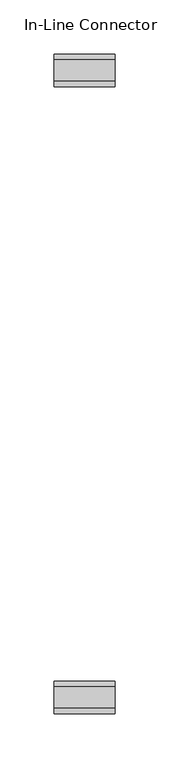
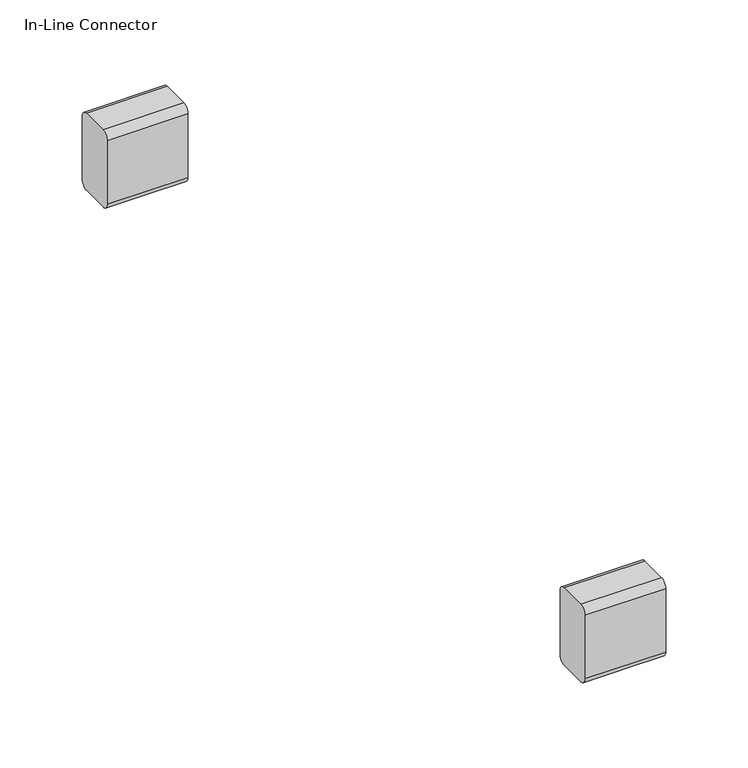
"""IFC4 building model written with IfcOpenShell, lengths in millimetres: furniture geometry, Coalesse_AM_Ensemble_Bench_EndOption : In-Line Connector."""

import ifcopenshell
import ifcopenshell.guid

model = None  # the IFC model being written
_history = None  # IfcOwnerHistory: only IFC2X3 demands one
_inside = {}  # id of a spatial element -> (the spatial element, [elements in it])
_under = {}  # id of a project, library or spatial element -> (it, [spatial elements below it])
_declared = {}  # id of a project -> (the project, [libraries it declares])
_typed = {}  # id of a type object -> (the type object, [elements of that type])
_made_of = {}  # id of a material, layer set ... -> (it, [elements and type objects made of it])


def new_model(schema):
    """Start an empty IFC model of exactly this schema.

    Asked for "IFC4X3", IfcOpenShell would pick the latest addendum, in which some entities
    have other attributes; the version numbers below select the first issue.
    IFC2X3 requires an IfcOwnerHistory on every rooted entity: one is made here for all.
    """
    global model, _history
    if schema == "IFC4X3":
        model = ifcopenshell.file(schema_version=(4, 3, 0, 0))
    else:
        model = ifcopenshell.file(schema=schema)
    _inside.clear()
    _under.clear()
    _declared.clear()
    _typed.clear()
    _made_of.clear()
    _history = None
    if model.schema == "IFC2X3":
        org = make("IfcOrganization", Name="unknown")
        user = make(
            "IfcPersonAndOrganization",
            ThePerson=make("IfcPerson", FamilyName="unknown"),
            TheOrganization=org,
        )
        app = make(
            "IfcApplication",
            ApplicationDeveloper=org,
            Version="unknown",
            ApplicationFullName="unknown",
            ApplicationIdentifier="unknown",
        )
        _history = make(
            "IfcOwnerHistory",
            OwningUser=user,
            OwningApplication=app,
            ChangeAction="ADDED",
            CreationDate=0,
        )
    return model


def make(cls, **values):
    """One entity of the class cls with the attributes given. An attribute that is None is left unset."""
    return model.create_entity(
        cls, **{name: value for name, value in values.items() if value is not None}
    )


def rooted(cls, **values):
    """An entity with a GlobalId (a new one), such as an element, a storey or a relation."""
    return make(cls, GlobalId=ifcopenshell.guid.new(), OwnerHistory=_history, **values)


def si_unit(unit_type, name, prefix=None):
    """IfcSIUnit, for example si_unit("LENGTHUNIT", "METRE", prefix="MILLI")."""
    return make("IfcSIUnit", UnitType=unit_type, Prefix=prefix, Name=name)


def assignment(units):
    """IfcUnitAssignment: the units of a project."""
    return None if units is None else make("IfcUnitAssignment", Units=units)


def point(xyz):
    """IfcCartesianPoint."""
    return None if xyz is None else make("IfcCartesianPoint", Coordinates=xyz)


def direction(xyz):
    """IfcDirection."""
    return None if xyz is None else make("IfcDirection", DirectionRatios=xyz)


def frame(location, z_axis=None, x_axis=None):
    """IfcAxis2Placement3D, a coordinate frame: its origin and axes. An axis left out is left unset."""
    return make(
        "IfcAxis2Placement3D",
        Location=point(location),
        Axis=direction(z_axis),
        RefDirection=direction(x_axis),
    )


def frame_2d(location, x_axis=None):
    """IfcAxis2Placement2D, a coordinate frame in the plane: its origin and x axis."""
    return make(
        "IfcAxis2Placement2D", Location=point(location), RefDirection=direction(x_axis)
    )


def origin():
    """The frame at (0, 0, 0) with its axes left unset."""
    return frame((0.0, 0.0, 0.0))


def place(relative_to, where):
    """IfcLocalPlacement: puts the frame where relative to a parent placement (None: the world)."""
    return make(
        "IfcLocalPlacement", PlacementRelTo=relative_to, RelativePlacement=where
    )


def context(
    kind, dimensions, precision=None, world=None, true_north=None, identifier=None
):
    """IfcGeometricRepresentationContext, for example the 3D "Model" context."""
    return make(
        "IfcGeometricRepresentationContext",
        ContextIdentifier=identifier,
        ContextType=kind,
        CoordinateSpaceDimension=dimensions,
        Precision=precision,
        WorldCoordinateSystem=world,
        TrueNorth=true_north,
    )


def project(units=None, contexts=None):
    """IfcProject with its units and contexts."""
    return rooted(
        "IfcProject",
        Name="project",
        RepresentationContexts=contexts,
        UnitsInContext=assignment(units),
    )


def spatial(cls, under=None, at=None, **own):
    """A site, building, storey or space (cls), placed at a placement, below another one or the project."""
    s = rooted(cls, ObjectPlacement=at, **own)
    if under is not None:
        _under.setdefault(under.id(), (under, []))[1].append(s)
    return s


def polyline(points):
    """IfcPolyline through the points."""
    return make("IfcPolyline", Points=[point(p) for p in points])


def circle_curve(where, radius):
    """IfcCircle in the frame where."""
    return make("IfcCircle", Position=where, Radius=radius)


def trimmed(basis, trim1, trim2, sense, master):
    """IfcTrimmedCurve: the piece of a basis curve between two trims."""
    return make(
        "IfcTrimmedCurve",
        BasisCurve=basis,
        Trim1=trim1,
        Trim2=trim2,
        SenseAgreement=sense,
        MasterRepresentation=master,
    )


def segment(curve, same_sense, transition):
    """IfcCompositeCurveSegment."""
    return make(
        "IfcCompositeCurveSegment",
        Transition=transition,
        SameSense=same_sense,
        ParentCurve=curve,
    )


def composite_curve(segments, self_intersect=None):
    """IfcCompositeCurve: segments joined end to end."""
    return make("IfcCompositeCurve", Segments=segments, SelfIntersect=self_intersect)


def outline(outer, holes=None, kind="AREA"):
    """IfcArbitraryClosedProfileDef: a profile drawn as a closed curve; with holes, ...WithVoids."""
    if holes is None:
        return make("IfcArbitraryClosedProfileDef", ProfileType=kind, OuterCurve=outer)
    return make(
        "IfcArbitraryProfileDefWithVoids",
        ProfileType=kind,
        OuterCurve=outer,
        InnerCurves=holes,
    )


def extrude(swept, where, along, depth):
    """IfcExtrudedAreaSolid: the profile swept, set in the frame where, extruded along a direction by depth."""
    return make(
        "IfcExtrudedAreaSolid",
        SweptArea=swept,
        Position=where,
        ExtrudedDirection=direction(along),
        Depth=depth,
    )


def shape(context_of_items, identifier, shape_type, items):
    """IfcShapeRepresentation: the items that make up one representation, for example the "Body"."""
    return make(
        "IfcShapeRepresentation",
        ContextOfItems=context_of_items,
        RepresentationIdentifier=identifier,
        RepresentationType=shape_type,
        Items=items,
    )


def source(mapping_origin, context_of_items, identifier, shape_type, items):
    """IfcRepresentationMap: a shape defined once, which mapped items show again and again."""
    return make(
        "IfcRepresentationMap",
        MappingOrigin=mapping_origin,
        MappedRepresentation=shape(context_of_items, identifier, shape_type, items),
    )


def transform(
    local_origin,
    x_axis=None,
    y_axis=None,
    z_axis=None,
    scale=None,
    scale2=None,
    scale3=None,
    uniform=True,
):
    """IfcCartesianTransformationOperator3D, or its non-uniform kind. x_axis, y_axis, z_axis: its Axis1, 2, 3."""
    if uniform:
        return make(
            "IfcCartesianTransformationOperator3D",
            Axis1=direction(x_axis),
            Axis2=direction(y_axis),
            LocalOrigin=point(local_origin),
            Scale=scale,
            Axis3=direction(z_axis),
        )
    return make(
        "IfcCartesianTransformationOperator3DnonUniform",
        Axis1=direction(x_axis),
        Axis2=direction(y_axis),
        LocalOrigin=point(local_origin),
        Scale=scale,
        Axis3=direction(z_axis),
        Scale2=scale2,
        Scale3=scale3,
    )


def mapped(mapping_source, mapping_target):
    """IfcMappedItem: shows the shape of a source again, moved by a transform."""
    return make(
        "IfcMappedItem", MappingSource=mapping_source, MappingTarget=mapping_target
    )


def made_of(thing, what):
    """Note that an element or type object is made of a material, layer set ...; save() writes the relation."""
    if what is not None:
        _made_of.setdefault(what.id(), (what, []))[1].append(thing)
    return thing


def element(
    cls,
    number,
    at=None,
    inside=None,
    cuts=None,
    type_object=None,
    material=None,
    context=None,
    identifier="Body",
    shape_type=None,
    held_by="IfcProductDefinitionShape",
    body=None,
    shapes=None,
    **own,
):
    """One element of the class cls, such as IfcWall. Its Tag is "e" and its number.

    at: its placement. inside: the storey or other place that contains it. cuts: it is an
    opening in that element (IfcRelVoidsElement). A single representation is given by context,
    identifier, shape_type and body (its items); several are given by shapes. held_by: the class
    of the entity that holds the representations. save() writes the other relations.
    """
    e = rooted(cls, Tag="e%d" % number, ObjectPlacement=at, **own)
    if body is not None:
        shapes = [shape(context, identifier, shape_type, body)]
    if shapes is not None:
        e.Representation = make(held_by, Representations=shapes)
    if inside is not None:
        _inside.setdefault(inside.id(), (inside, []))[1].append(e)
    if cuts is not None:
        rooted(
            "IfcRelVoidsElement", RelatingBuildingElement=cuts, RelatedOpeningElement=e
        )
    if type_object is not None:
        _typed.setdefault(type_object.id(), (type_object, []))[1].append(e)
    return made_of(e, material)


def aggregate(whole, parts):
    """IfcRelAggregates: a whole, such as a stair, and the parts it consists of."""
    return rooted("IfcRelAggregates", RelatingObject=whole, RelatedObjects=parts)


def save(model, path):
    """Write the relations noted so far, then the file.

    IfcRelAggregates (storeys below a building ...), IfcRelContainedInSpatialStructure (elements
    in a storey), IfcRelDefinesByType, IfcRelAssociatesMaterial and IfcRelDeclares: one each for
    every whole, place, type object, material and project.
    """
    for whole, parts in _under.values():
        aggregate(whole, parts)
    for where, things in _inside.values():
        rooted(
            "IfcRelContainedInSpatialStructure",
            RelatedElements=things,
            RelatingStructure=where,
        )
    for kind, things in _typed.values():
        rooted("IfcRelDefinesByType", RelatedObjects=things, RelatingType=kind)
    for what, things in _made_of.values():
        rooted("IfcRelAssociatesMaterial", RelatedObjects=things, RelatingMaterial=what)
    for by, libraries in _declared.values():
        rooted("IfcRelDeclares", RelatingContext=by, RelatedDefinitions=libraries)
    model.write(path)


def in_line_connector_42f77765(model_context):
    return source(origin(), model_context, "Body", "SweptSolid", [
        extrude(outline(composite_curve([segment(trimmed(circle_curve(frame_2d((-127.9503459, 77.9022583)), 5.08), [point((-127.9503459, 72.8222583))], [point((-133.0303459, 77.9022261))], False, "CARTESIAN"), True, "CONTINUOUS"), segment(polyline([(-133.0303459, 77.9022261), (-133.0306449, 125.0106949)]), True, "CONTINUOUS"), segment(trimmed(circle_curve(frame_2d((-127.9506449, 125.0107271)), 5.08), [point((-133.0306449, 125.0106949))], [point((-127.9506449, 130.0907271))], False, "CARTESIAN"), True, "CONTINUOUS"), segment(polyline([(-127.9506449, 130.0907271), (-107.8287905, 130.0907271)]), True, "CONTINUOUS"), segment(trimmed(circle_curve(frame_2d((-107.8287905, 125.0107271)), 5.08), [point((-107.8287905, 130.0907271))], [point((-102.7487905, 125.0107594))], False, "CARTESIAN"), True, "CONTINUOUS"), segment(polyline([(-102.7487905, 125.0107594), (-102.7484915, 77.9022906)]), True, "CONTINUOUS"), segment(trimmed(circle_curve(frame_2d((-107.8284915, 77.9022583)), 5.08), [point((-102.7484915, 77.9022906))], [point((-107.8284915, 72.8222583))], False, "CARTESIAN"), True, "CONTINUOUS"), segment(polyline([(-107.8284915, 72.8222583), (-127.9503459, 72.8222583)]), True, "CONTINUOUS")], self_intersect=False)), frame((0.0, 0.0, 0.0), z_axis=(1.0, 0.0, 0.0), x_axis=(0.0, 1.0, 0.0)), (0.0, 0.0, 1.0), 56.5501701),
        extrude(outline(composite_curve([segment(trimmed(circle_curve(frame_2d((-708.1725033, 77.9022583)), 5.08), [point((-708.1725033, 72.8222583))], [point((-713.2525033, 77.9022261))], False, "CARTESIAN"), True, "CONTINUOUS"), segment(polyline([(-713.2525033, 77.9022261), (-713.2528023, 125.0106949)]), True, "CONTINUOUS"), segment(trimmed(circle_curve(frame_2d((-708.1728023, 125.0107271)), 5.08), [point((-713.2528023, 125.0106949))], [point((-708.1728023, 130.0907271))], False, "CARTESIAN"), True, "CONTINUOUS"), segment(polyline([(-708.1728023, 130.0907271), (-688.0509479, 130.0907271)]), True, "CONTINUOUS"), segment(trimmed(circle_curve(frame_2d((-688.0509479, 125.0107271)), 5.08), [point((-688.0509479, 130.0907271))], [point((-682.9709479, 125.0107594))], False, "CARTESIAN"), True, "CONTINUOUS"), segment(polyline([(-682.9709479, 125.0107594), (-682.9706489, 77.9022906)]), True, "CONTINUOUS"), segment(trimmed(circle_curve(frame_2d((-688.0506489, 77.9022583)), 5.08), [point((-682.9706489, 77.9022906))], [point((-688.0506489, 72.8222583))], False, "CARTESIAN"), True, "CONTINUOUS"), segment(polyline([(-688.0506489, 72.8222583), (-708.1725033, 72.8222583)]), True, "CONTINUOUS")], self_intersect=False)), frame((0.0, 0.0, 0.0), z_axis=(1.0, 0.0, 0.0), x_axis=(0.0, 1.0, 0.0)), (0.0, 0.0, 1.0), 56.5501701),
    ])


if __name__ == "__main__":
    model = new_model("IFC4")
    model_context = context("Model", 3, world=origin())
    ifc_project = project(units=[si_unit("LENGTHUNIT", "METRE", prefix="MILLI")], contexts=[model_context])
    site = spatial("IfcSite", under=ifc_project)
    building = spatial("IfcBuilding", under=site)
    placement = place(None, origin())
    in_line_connector_shape = in_line_connector_42f77765(model_context)
    element("IfcFurniture", 1, ObjectType="Coalesse_AM_Ensemble_Bench_EndOption : In-Line Connector", at=placement, inside=building, context=model_context, shape_type="MappedRepresentation", body=[
        mapped(in_line_connector_shape, transform((0.0, 0.0, 0.0), x_axis=(1.0, 0.0, 0.0), y_axis=(0.0, 1.0, 0.0), z_axis=(0.0, 0.0, 1.0))),
    ])
    save(model, "model.ifc")
